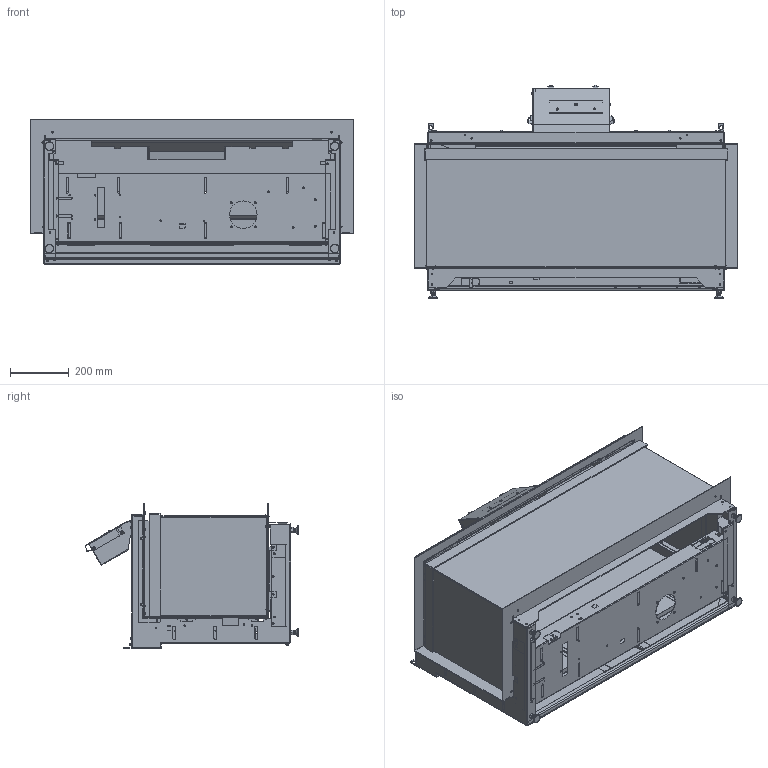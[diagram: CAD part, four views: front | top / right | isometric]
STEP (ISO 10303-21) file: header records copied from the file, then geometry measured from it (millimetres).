
FILE_DESCRIPTION (( 'STEP AP203' ), '1' );
FILE_NAME ('E-ONE 100 3S MET HEATER GEN 2 MAIN ASSY.STEP', '2023-11-01T15:02:14', ( '' ), ( '' ), 'SwSTEP 2.0', 'SolidWorks 2020', '' );
FILE_SCHEMA (( 'CONFIG_CONTROL_DESIGN' ));
Length unit declared in the file: millimetre
Products named in the file (1): E-ONE 100 3S MET HEATER GEN 2 MAIN ASSY
Bounding box: 1100 x 728.4 x 492.1 mm (x, y, z)
Surface area: 6544472.9 mm2 (no closed solid volume)
Topology: 0 solids, 254 shells, 741 faces, 6278 edges, 5572 vertices
Faces by surface type: plane 501, cylinder 174, cone 33, bspline 15, torus 12, sphere 6
Entity records: 60177 total; most frequent: CARTESIAN_POINT 14093, DIRECTION 9854, ORIENTED_EDGE 7107, EDGE_CURVE 6274, VERTEX_POINT 5572, LINE 3758, VECTOR 3758, AXIS2_PLACEMENT_3D 3048
